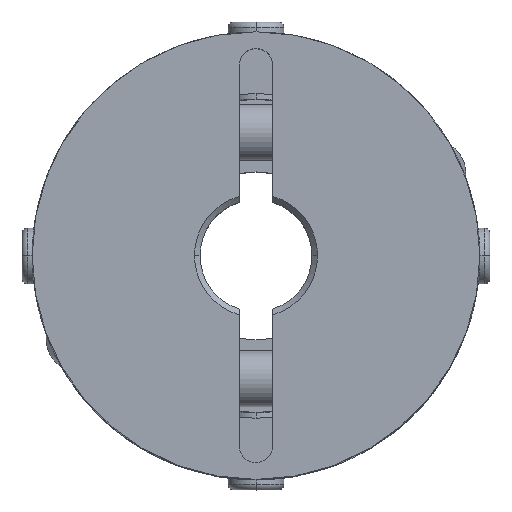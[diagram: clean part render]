
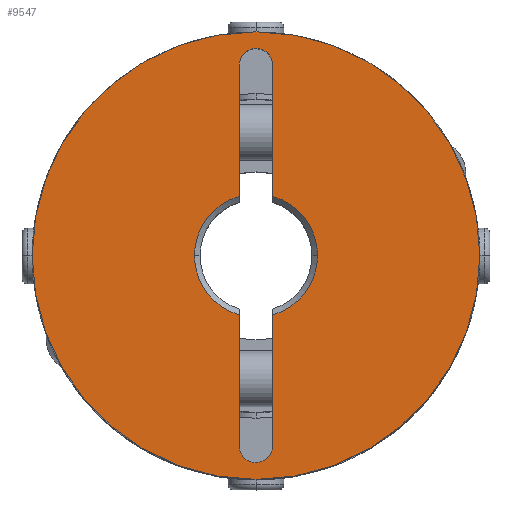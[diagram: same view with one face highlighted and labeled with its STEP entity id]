
A CAD part, top view. The second image highlights one B-rep face of the part: STEP entity #9547.
In plain terms, the highlighted planar face has unit normal (0, 0, 1).
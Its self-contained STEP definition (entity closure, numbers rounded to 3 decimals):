
#829=CARTESIAN_POINT('',(-20.0,0.,20.0));
#830=VERTEX_POINT('',#829);
#837=CARTESIAN_POINT('',(20.0,0.0,20.0));
#838=VERTEX_POINT('',#837);
#839=CARTESIAN_POINT('',(0.0,0.0,20.0));
#840=DIRECTION('',(0.0,0.0,-1.0));
#841=DIRECTION('',(1.0,0.0,0.0));
#842=AXIS2_PLACEMENT_3D('',#839,#840,#841);
#843=CIRCLE('',#842,20.0);
#844=EDGE_CURVE('',#830,#838,#843,.T.);
#1155=CARTESIAN_POINT('',(-1.061,18.061,20.0));
#1156=VERTEX_POINT('',#1155);
#1172=CARTESIAN_POINT('',(1.5,17.,20.0));
#1173=VERTEX_POINT('',#1172);
#1180=CARTESIAN_POINT('',(0.,17.,20.0));
#1181=DIRECTION('',(0.0,0.0,1.));
#1182=DIRECTION('',(0.707,0.707,0.0));
#1183=AXIS2_PLACEMENT_3D('',#1180,#1181,#1182);
#1184=CIRCLE('',#1183,1.5);
#1185=EDGE_CURVE('',#1173,#1156,#1184,.T.);
#1197=CARTESIAN_POINT('',(1.061,-18.061,20.0));
#1198=VERTEX_POINT('',#1197);
#1214=CARTESIAN_POINT('',(-1.5,-17.,20.0));
#1215=VERTEX_POINT('',#1214);
#1222=CARTESIAN_POINT('',(0.0,-17.,20.0));
#1223=DIRECTION('',(0.0,0.0,1.0));
#1224=DIRECTION('',(-0.707,-0.707,0.0));
#1225=AXIS2_PLACEMENT_3D('',#1222,#1223,#1224);
#1226=CIRCLE('',#1225,1.5);
#1227=EDGE_CURVE('',#1215,#1198,#1226,.T.);
#1237=CARTESIAN_POINT('',(-5.5,0.,20.0));
#1238=VERTEX_POINT('',#1237);
#1245=CARTESIAN_POINT('',(-1.5,-5.292,20.0));
#1246=VERTEX_POINT('',#1245);
#1247=CARTESIAN_POINT('',(0.0,0.0,20.0));
#1248=DIRECTION('',(0.0,0.0,1.0));
#1249=DIRECTION('',(-1.0,0.0,0.0));
#1250=AXIS2_PLACEMENT_3D('',#1247,#1248,#1249);
#1251=CIRCLE('',#1250,5.5);
#1252=EDGE_CURVE('',#1238,#1246,#1251,.T.);
#1276=CARTESIAN_POINT('',(5.5,0.,20.0));
#1277=VERTEX_POINT('',#1276);
#1284=CARTESIAN_POINT('',(1.5,5.292,20.0));
#1285=VERTEX_POINT('',#1284);
#1286=CARTESIAN_POINT('',(0.0,0.0,20.0));
#1287=DIRECTION('',(0.0,0.0,1.0));
#1288=DIRECTION('',(1.0,0.0,0.0));
#1289=AXIS2_PLACEMENT_3D('',#1286,#1287,#1288);
#1290=CIRCLE('',#1289,5.5);
#1291=EDGE_CURVE('',#1277,#1285,#1290,.T.);
#9352=CARTESIAN_POINT('',(-1.5,17.,20.0));
#9353=VERTEX_POINT('',#9352);
#9360=CARTESIAN_POINT('',(-1.5,5.292,20.0));
#9361=VERTEX_POINT('',#9360);
#9362=CARTESIAN_POINT('',(-1.5,5.292,20.0));
#9363=DIRECTION('',(0.0,1.0,0.0));
#9364=VECTOR('',#9363,11.708);
#9365=LINE('',#9362,#9364);
#9366=EDGE_CURVE('',#9361,#9353,#9365,.T.);
#9441=CARTESIAN_POINT('',(1.5,17.,20.0));
#9442=DIRECTION('',(0.0,-1.0,0.0));
#9443=VECTOR('',#9442,11.708);
#9444=LINE('',#9441,#9443);
#9445=EDGE_CURVE('',#1173,#1285,#9444,.T.);
#9463=CARTESIAN_POINT('',(1.5,-5.292,20.0));
#9464=VERTEX_POINT('',#9463);
#9478=CARTESIAN_POINT('',(0.0,0.0,20.0));
#9479=DIRECTION('',(0.0,0.0,1.0));
#9480=DIRECTION('',(1.0,0.0,0.0));
#9481=AXIS2_PLACEMENT_3D('',#9478,#9479,#9480);
#9482=CIRCLE('',#9481,5.5);
#9483=EDGE_CURVE('',#9464,#1277,#9482,.T.);
#9488=CARTESIAN_POINT('',(1.818,0.,20.0));
#9489=DIRECTION('',(0.0,0.0,1.0));
#9490=DIRECTION('',(1.0,0.0,0.0));
#9491=AXIS2_PLACEMENT_3D('',#9488,#9489,#9490);
#9492=PLANE('',#9491);
#9493=CARTESIAN_POINT('',(0.0,0.0,20.0));
#9494=DIRECTION('',(0.0,0.0,-1.0));
#9495=DIRECTION('',(1.0,0.0,0.0));
#9496=AXIS2_PLACEMENT_3D('',#9493,#9494,#9495);
#9497=CIRCLE('',#9496,20.0);
#9498=EDGE_CURVE('',#838,#830,#9497,.T.);
#9499=ORIENTED_EDGE('',*,*,#9498,.F.);
#9500=ORIENTED_EDGE('',*,*,#844,.F.);
#9501=EDGE_LOOP('',(#9499,#9500));
#9502=FACE_OUTER_BOUND('',#9501,.T.);
#9503=ORIENTED_EDGE('',*,*,#9483,.F.);
#9504=CARTESIAN_POINT('',(1.5,-17.,20.0));
#9505=VERTEX_POINT('',#9504);
#9506=CARTESIAN_POINT('',(1.5,-5.292,20.0));
#9507=DIRECTION('',(0.0,-1.0,0.0));
#9508=VECTOR('',#9507,11.708);
#9509=LINE('',#9506,#9508);
#9510=EDGE_CURVE('',#9464,#9505,#9509,.T.);
#9511=ORIENTED_EDGE('',*,*,#9510,.T.);
#9512=CARTESIAN_POINT('',(0.0,-17.,20.0));
#9513=DIRECTION('',(0.0,0.0,1.0));
#9514=DIRECTION('',(-0.707,-0.707,0.0));
#9515=AXIS2_PLACEMENT_3D('',#9512,#9513,#9514);
#9516=CIRCLE('',#9515,1.5);
#9517=EDGE_CURVE('',#1198,#9505,#9516,.T.);
#9518=ORIENTED_EDGE('',*,*,#9517,.F.);
#9519=ORIENTED_EDGE('',*,*,#1227,.F.);
#9520=CARTESIAN_POINT('',(-1.5,-17.,20.0));
#9521=DIRECTION('',(0.0,1.0,0.0));
#9522=VECTOR('',#9521,11.708);
#9523=LINE('',#9520,#9522);
#9524=EDGE_CURVE('',#1215,#1246,#9523,.T.);
#9525=ORIENTED_EDGE('',*,*,#9524,.T.);
#9526=ORIENTED_EDGE('',*,*,#1252,.F.);
#9527=CARTESIAN_POINT('',(0.0,0.0,20.0));
#9528=DIRECTION('',(0.0,0.0,1.0));
#9529=DIRECTION('',(-1.0,0.0,0.0));
#9530=AXIS2_PLACEMENT_3D('',#9527,#9528,#9529);
#9531=CIRCLE('',#9530,5.5);
#9532=EDGE_CURVE('',#9361,#1238,#9531,.T.);
#9533=ORIENTED_EDGE('',*,*,#9532,.F.);
#9534=ORIENTED_EDGE('',*,*,#9366,.T.);
#9535=CARTESIAN_POINT('',(0.,17.,20.0));
#9536=DIRECTION('',(0.0,0.0,1.));
#9537=DIRECTION('',(0.707,0.707,0.0));
#9538=AXIS2_PLACEMENT_3D('',#9535,#9536,#9537);
#9539=CIRCLE('',#9538,1.5);
#9540=EDGE_CURVE('',#1156,#9353,#9539,.T.);
#9541=ORIENTED_EDGE('',*,*,#9540,.F.);
#9542=ORIENTED_EDGE('',*,*,#1185,.F.);
#9543=ORIENTED_EDGE('',*,*,#9445,.T.);
#9544=ORIENTED_EDGE('',*,*,#1291,.F.);
#9545=EDGE_LOOP('',(#9503,#9511,#9518,#9519,#9525,#9526,#9533,#9534,#9541,#9542,#9543,#9544));
#9546=FACE_BOUND('',#9545,.T.);
#9547=ADVANCED_FACE('',(#9502,#9546),#9492,.T.);
